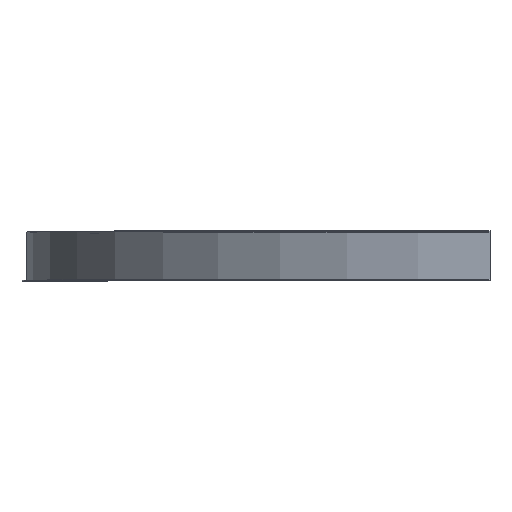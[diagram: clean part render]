
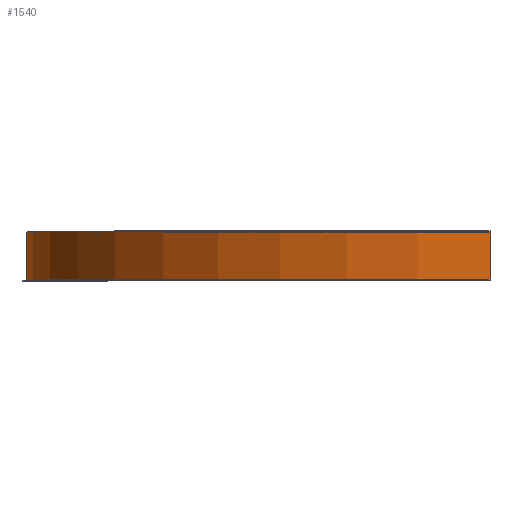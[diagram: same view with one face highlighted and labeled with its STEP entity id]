
A CAD part, top view. The second image highlights one B-rep face of the part: STEP entity #1540.
In plain terms, the highlighted cylindrical face has radius 748.5 mm (diameter 1497 mm), a partial arc.
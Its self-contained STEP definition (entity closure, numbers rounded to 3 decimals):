
#1 = VERTEX_POINT ( 'NONE', #1914 ) ;
#50 = AXIS2_PLACEMENT_3D ( 'NONE', #135, #854, #850 ) ;
#135 = CARTESIAN_POINT ( 'NONE',  ( 725., 1.8, 0. ) ) ;
#153 = VERTEX_POINT ( 'NONE', #1186 ) ;
#195 = VERTEX_POINT ( 'NONE', #876 ) ;
#230 = DIRECTION ( 'NONE',  ( 0., -1., 0. ) ) ;
#307 = CIRCLE ( 'NONE', #50, 748.5 ) ;
#313 = DIRECTION ( 'NONE',  ( 0., 1., 0. ) ) ;
#340 = VERTEX_POINT ( 'NONE', #1404 ) ;
#400 = LINE ( 'NONE', #500, #929 ) ;
#422 = ORIENTED_EDGE ( 'NONE', *, *, #1892, .T. ) ;
#430 = EDGE_LOOP ( 'NONE', ( #708, #1076, #731, #422 ) ) ;
#500 = CARTESIAN_POINT ( 'NONE',  ( -23.5, 1.8, 0. ) ) ;
#519 = FACE_OUTER_BOUND ( 'NONE', #430, .T. ) ;
#556 = CARTESIAN_POINT ( 'NONE',  ( 725., 0., 0. ) ) ;
#690 = DIRECTION ( 'NONE',  ( 0., 1., 0. ) ) ;
#708 = ORIENTED_EDGE ( 'NONE', *, *, #1654, .T. ) ;
#731 = ORIENTED_EDGE ( 'NONE', *, *, #1799, .F. ) ;
#850 = DIRECTION ( 'NONE',  ( -1., 0., 0. ) ) ;
#854 = DIRECTION ( 'NONE',  ( 0., 1., 0. ) ) ;
#876 = CARTESIAN_POINT ( 'NONE',  ( 725., 1.8, 748.5 ) ) ;
#929 = VECTOR ( 'NONE', #230, 1000. ) ;
#1023 = LINE ( 'NONE', #1125, #1730 ) ;
#1076 = ORIENTED_EDGE ( 'NONE', *, *, #1270, .F. ) ;
#1125 = CARTESIAN_POINT ( 'NONE',  ( 725., 1.8, 748.5 ) ) ;
#1186 = CARTESIAN_POINT ( 'NONE',  ( -23.5, 1.8, 0. ) ) ;
#1228 = AXIS2_PLACEMENT_3D ( 'NONE', #556, #690, #1895 ) ;
#1270 = EDGE_CURVE ( 'NONE', #340, #195, #1023, .T. ) ;
#1334 = AXIS2_PLACEMENT_3D ( 'NONE', #1801, #313, #1665 ) ;
#1404 = CARTESIAN_POINT ( 'NONE',  ( 725., 79.5, 748.5 ) ) ;
#1474 = CIRCLE ( 'NONE', #1334, 748.5 ) ;
#1540 = ADVANCED_FACE ( 'NONE', ( #519 ), #1795, .T. ) ;
#1654 = EDGE_CURVE ( 'NONE', #153, #195, #307, .T. ) ;
#1665 = DIRECTION ( 'NONE',  ( -1., 0., 0. ) ) ;
#1730 = VECTOR ( 'NONE', #1860, 1000. ) ;
#1795 = CYLINDRICAL_SURFACE ( 'NONE', #1228, 748.5 ) ;
#1799 = EDGE_CURVE ( 'NONE', #1, #340, #1474, .T. ) ;
#1801 = CARTESIAN_POINT ( 'NONE',  ( 725., 79.5, 0. ) ) ;
#1860 = DIRECTION ( 'NONE',  ( 0., -1., 0. ) ) ;
#1892 = EDGE_CURVE ( 'NONE', #1, #153, #400, .T. ) ;
#1895 = DIRECTION ( 'NONE',  ( 0., 0., 1. ) ) ;
#1914 = CARTESIAN_POINT ( 'NONE',  ( -23.5, 79.5, 0. ) ) ;
